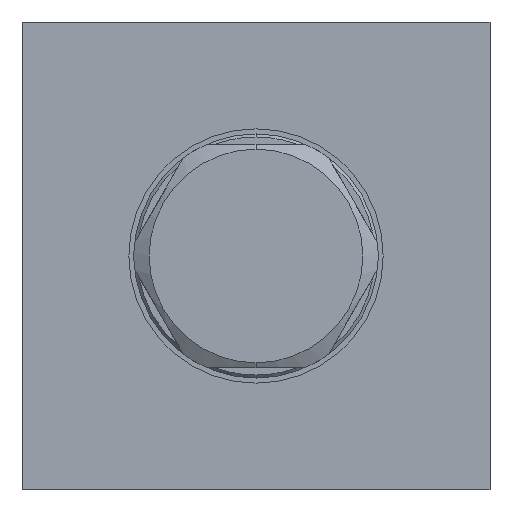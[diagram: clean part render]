
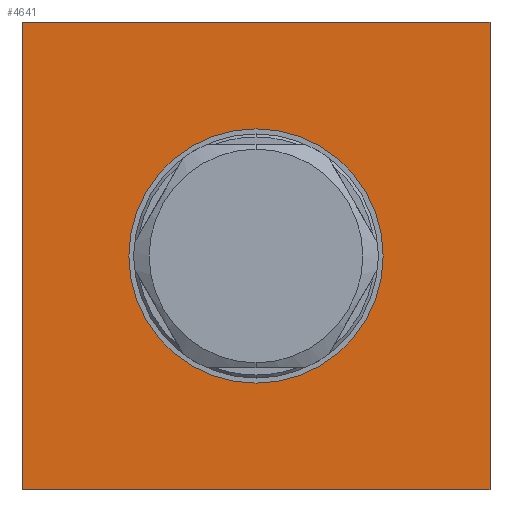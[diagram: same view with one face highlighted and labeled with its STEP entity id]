
A CAD part, left-side view. The second image highlights one B-rep face of the part: STEP entity #4641.
In plain terms, the highlighted planar face has unit normal (-1, 0, 0).
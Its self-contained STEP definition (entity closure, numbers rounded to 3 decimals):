
#27 = CARTESIAN_POINT ( 'NONE',  ( 0., -23., 23. ) ) ;
#471 = CARTESIAN_POINT ( 'NONE',  ( 0., 23., -23. ) ) ;
#1286 = VECTOR ( 'NONE', #4602, 1000. ) ;
#1319 = LINE ( 'NONE', #8803, #7369 ) ;
#1878 = LINE ( 'NONE', #27, #14125 ) ;
#2102 = DIRECTION ( 'NONE',  ( 0., 1., 0. ) ) ;
#2191 = ORIENTED_EDGE ( 'NONE', *, *, #15236, .F. ) ;
#2335 = CARTESIAN_POINT ( 'NONE',  ( 0., -23., -23. ) ) ;
#2836 = EDGE_CURVE ( 'NONE', #3276, #14097, #12278, .T. ) ;
#3063 = AXIS2_PLACEMENT_3D ( 'NONE', #9404, #9387, #9383 ) ;
#3276 = VERTEX_POINT ( 'NONE', #471 ) ;
#3598 = VERTEX_POINT ( 'NONE', #15403 ) ;
#3907 = CIRCLE ( 'NONE', #5209, 12.5 ) ;
#4588 = CARTESIAN_POINT ( 'NONE',  ( 0., 23., 23. ) ) ;
#4602 = DIRECTION ( 'NONE',  ( 0., 0., 1. ) ) ;
#4641 = ADVANCED_FACE ( 'NONE', ( #10786, #10770 ), #5412, .T. ) ;
#5081 = DIRECTION ( 'NONE',  ( 0., 0., 1. ) ) ;
#5106 = CIRCLE ( 'NONE', #3063, 12.5 ) ;
#5112 = DIRECTION ( 'NONE',  ( -1., 0., 0. ) ) ;
#5117 = CARTESIAN_POINT ( 'NONE',  ( 0., 0., 0. ) ) ;
#5209 = AXIS2_PLACEMENT_3D ( 'NONE', #13830, #13825, #13777 ) ;
#5412 = PLANE ( 'NONE',  #13633 ) ;
#6803 = CARTESIAN_POINT ( 'NONE',  ( 0., 12.5, 0. ) ) ;
#7369 = VECTOR ( 'NONE', #9198, 1000. ) ;
#8035 = ORIENTED_EDGE ( 'NONE', *, *, #14631, .F. ) ;
#8744 = CARTESIAN_POINT ( 'NONE',  ( 0., -12.5, 0. ) ) ;
#8803 = CARTESIAN_POINT ( 'NONE',  ( 0., -23., 23. ) ) ;
#8904 = LINE ( 'NONE', #2335, #14772 ) ;
#8994 = VERTEX_POINT ( 'NONE', #8744 ) ;
#9198 = DIRECTION ( 'NONE',  ( 0., 0., -1. ) ) ;
#9383 = DIRECTION ( 'NONE',  ( 0., -1., 0. ) ) ;
#9387 = DIRECTION ( 'NONE',  ( -1., 0., 0. ) ) ;
#9404 = CARTESIAN_POINT ( 'NONE',  ( 0., 0., 0. ) ) ;
#9847 = CARTESIAN_POINT ( 'NONE',  ( 0., 23., 23. ) ) ;
#10770 = FACE_BOUND ( 'NONE', #15481, .T. ) ;
#10786 = FACE_OUTER_BOUND ( 'NONE', #15280, .T. ) ;
#10933 = ORIENTED_EDGE ( 'NONE', *, *, #2836, .F. ) ;
#12183 = ORIENTED_EDGE ( 'NONE', *, *, #15030, .F. ) ;
#12222 = CARTESIAN_POINT ( 'NONE',  ( 0., -23., -23. ) ) ;
#12278 = LINE ( 'NONE', #4588, #1286 ) ;
#13353 = VERTEX_POINT ( 'NONE', #6803 ) ;
#13474 = EDGE_CURVE ( 'NONE', #15163, #3276, #8904, .T. ) ;
#13633 = AXIS2_PLACEMENT_3D ( 'NONE', #5117, #5112, #5081 ) ;
#13777 = DIRECTION ( 'NONE',  ( 0., -1., 0. ) ) ;
#13825 = DIRECTION ( 'NONE',  ( -1., 0., 0. ) ) ;
#13830 = CARTESIAN_POINT ( 'NONE',  ( 0., 0., 0. ) ) ;
#14097 = VERTEX_POINT ( 'NONE', #9847 ) ;
#14125 = VECTOR ( 'NONE', #15071, 1000. ) ;
#14143 = EDGE_CURVE ( 'NONE', #3598, #15163, #1319, .T. ) ;
#14461 = ORIENTED_EDGE ( 'NONE', *, *, #13474, .F. ) ;
#14631 = EDGE_CURVE ( 'NONE', #14097, #3598, #1878, .T. ) ;
#14772 = VECTOR ( 'NONE', #2102, 1000. ) ;
#15030 = EDGE_CURVE ( 'NONE', #13353, #8994, #3907, .T. ) ;
#15071 = DIRECTION ( 'NONE',  ( 0., -1., 0. ) ) ;
#15163 = VERTEX_POINT ( 'NONE', #12222 ) ;
#15236 = EDGE_CURVE ( 'NONE', #8994, #13353, #5106, .T. ) ;
#15280 = EDGE_LOOP ( 'NONE', ( #14461, #15419, #8035, #10933 ) ) ;
#15403 = CARTESIAN_POINT ( 'NONE',  ( 0., -23., 23. ) ) ;
#15419 = ORIENTED_EDGE ( 'NONE', *, *, #14143, .F. ) ;
#15481 = EDGE_LOOP ( 'NONE', ( #2191, #12183 ) ) ;
